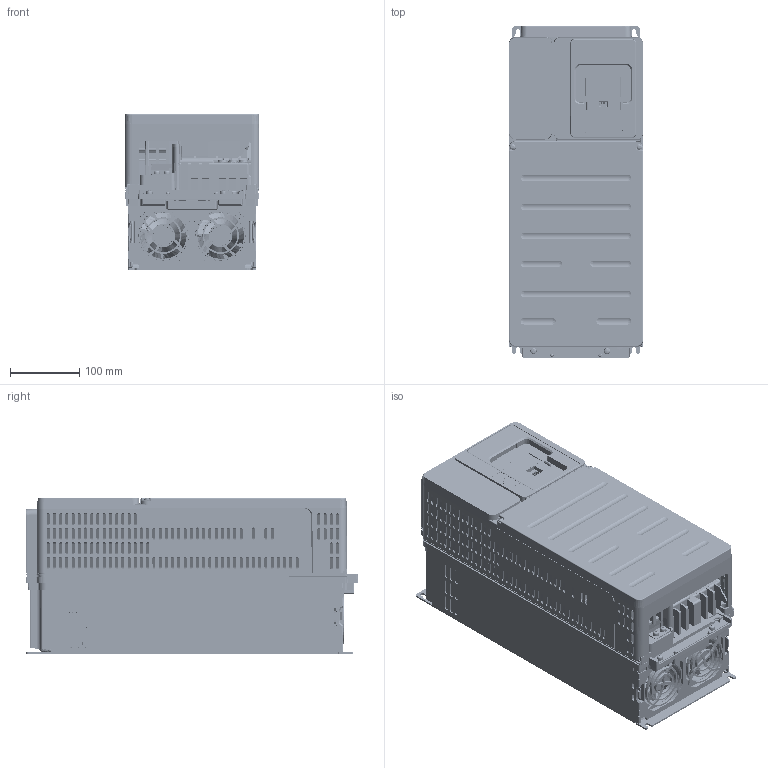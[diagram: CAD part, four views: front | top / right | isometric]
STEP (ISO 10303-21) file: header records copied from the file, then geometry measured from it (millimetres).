
FILE_DESCRIPTION(/* description */ (''),/* implementation_level */ '2;1');
FILE_NAME(/* name */ 'ATH600_S3_IP20_3Dsimpl.stp',/* time_stamp */ '2026-02-03T15:17:54+01:00',/* author */ (''),/* organization */ (''),/* preprocessor_version */ 'ST-DEVELOPER v16.7',/* originating_system */ 'SIEMENS PLM Software NX 12.0',/* authorisation */ '');
FILE_SCHEMA (('AUTOMOTIVE_DESIGN { 1 0 10303 214 3 1 1 1 }'));
Products named in the file (1): ATH600_S3_IP20_3Dsimpl_step
Bounding box: 195 x 480 x 225.5 mm (x, y, z)
Volume: 16022580.9 mm3; surface area: 1276194.4 mm2
Topology: 3 solids, 60 shells, 9133 faces, 25411 edges, 16548 vertices
Faces by surface type: plane 5815, cylinder 1514, bspline 1015, cone 548, torus 148, sphere 93
Entity records: 364440 total; most frequent: CARTESIAN_POINT 139205, ORIENTED_EDGE 50742, DIRECTION 41011, EDGE_CURVE 25371, LINE 16649, VECTOR 16649, VERTEX_POINT 16545, AXIS2_PLACEMENT_3D 12181
